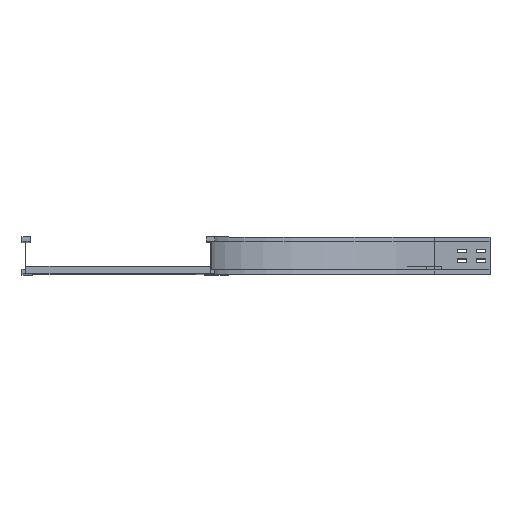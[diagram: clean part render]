
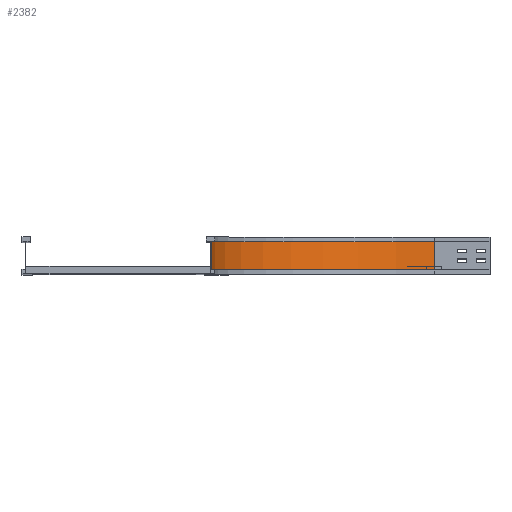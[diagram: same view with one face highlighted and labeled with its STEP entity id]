
A CAD part, top view. The second image highlights one B-rep face of the part: STEP entity #2382.
In plain terms, the highlighted cylindrical face has radius 600 mm (diameter 1200 mm), a partial arc.
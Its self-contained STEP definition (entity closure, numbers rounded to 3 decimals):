
#276 = EDGE_CURVE ( 'NONE', #2710, #3952, #2081, .T. ) ;
#323 = FACE_OUTER_BOUND ( 'NONE', #3769, .T. ) ;
#345 = AXIS2_PLACEMENT_3D ( 'NONE', #1628, #4170, #2034 ) ;
#458 = VERTEX_POINT ( 'NONE', #3655 ) ;
#640 = CARTESIAN_POINT ( 'NONE',  ( 591., 0., -150. ) ) ;
#659 = DIRECTION ( 'NONE',  ( 0., 1., 0. ) ) ;
#940 = ORIENTED_EDGE ( 'NONE', *, *, #3938, .F. ) ;
#964 = LINE ( 'NONE', #2422, #2970 ) ;
#1010 = EDGE_CURVE ( 'NONE', #458, #4574, #3649, .T. ) ;
#1103 = CARTESIAN_POINT ( 'NONE',  ( 591., 88., -150. ) ) ;
#1338 = DIRECTION ( 'NONE',  ( 0., -1., 0. ) ) ;
#1576 = AXIS2_PLACEMENT_3D ( 'NONE', #640, #1338, #1714 ) ;
#1628 = CARTESIAN_POINT ( 'NONE',  ( 591., 12., -150. ) ) ;
#1714 = DIRECTION ( 'NONE',  ( 0., 0., -1. ) ) ;
#1740 = CYLINDRICAL_SURFACE ( 'NONE', #1576, 600. ) ;
#1835 = DIRECTION ( 'NONE',  ( 0., 1., 0. ) ) ;
#2034 = DIRECTION ( 'NONE',  ( -1., 0., 0. ) ) ;
#2076 = CARTESIAN_POINT ( 'NONE',  ( 591., 12., -750. ) ) ;
#2081 = CIRCLE ( 'NONE', #2541, 600. ) ;
#2382 = ADVANCED_FACE ( 'NONE', ( #323 ), #1740, .F. ) ;
#2392 = CARTESIAN_POINT ( 'NONE',  ( -9., 88., -150. ) ) ;
#2422 = CARTESIAN_POINT ( 'NONE',  ( -9., 12., -150. ) ) ;
#2541 = AXIS2_PLACEMENT_3D ( 'NONE', #1103, #3341, #2982 ) ;
#2710 = VERTEX_POINT ( 'NONE', #2392 ) ;
#2782 = EDGE_CURVE ( 'NONE', #4574, #3952, #2793, .T. ) ;
#2793 = LINE ( 'NONE', #4251, #2804 ) ;
#2804 = VECTOR ( 'NONE', #659, 1000. ) ;
#2970 = VECTOR ( 'NONE', #1835, 1000. ) ;
#2982 = DIRECTION ( 'NONE',  ( -1., 0., 0. ) ) ;
#3341 = DIRECTION ( 'NONE',  ( 0., -1., 0. ) ) ;
#3535 = ORIENTED_EDGE ( 'NONE', *, *, #2782, .T. ) ;
#3639 = CARTESIAN_POINT ( 'NONE',  ( 591., 88., -750. ) ) ;
#3642 = ORIENTED_EDGE ( 'NONE', *, *, #276, .F. ) ;
#3649 = CIRCLE ( 'NONE', #345, 600. ) ;
#3655 = CARTESIAN_POINT ( 'NONE',  ( -9., 12., -150. ) ) ;
#3769 = EDGE_LOOP ( 'NONE', ( #3642, #940, #4600, #3535 ) ) ;
#3938 = EDGE_CURVE ( 'NONE', #458, #2710, #964, .T. ) ;
#3952 = VERTEX_POINT ( 'NONE', #3639 ) ;
#4170 = DIRECTION ( 'NONE',  ( 0., -1., 0. ) ) ;
#4251 = CARTESIAN_POINT ( 'NONE',  ( 591., 12., -750. ) ) ;
#4574 = VERTEX_POINT ( 'NONE', #2076 ) ;
#4600 = ORIENTED_EDGE ( 'NONE', *, *, #1010, .T. ) ;
